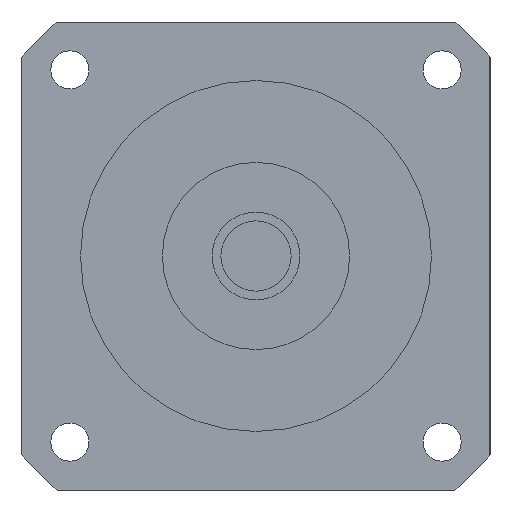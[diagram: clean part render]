
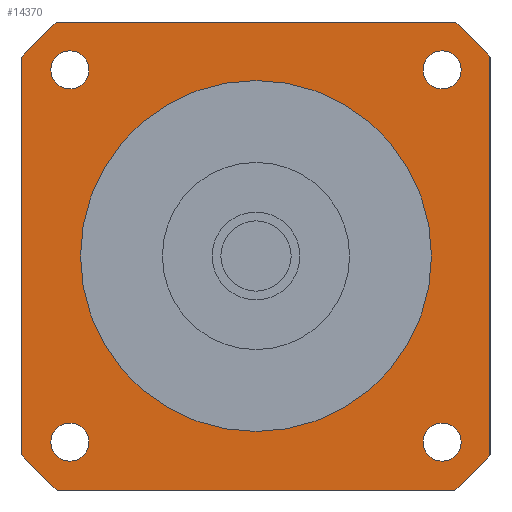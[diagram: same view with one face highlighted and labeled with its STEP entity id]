
A CAD part, left-side view. The second image highlights one B-rep face of the part: STEP entity #14370.
In plain terms, the highlighted planar face has unit normal (-1, 0, 0) as drawn and (0, 0, -1) by its records, which use the part's own axes.
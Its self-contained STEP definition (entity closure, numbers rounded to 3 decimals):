
#12700=CARTESIAN_POINT('',(-28.57,31.82,-42.2));
#12710=VERTEX_POINT('',#12700);
#12740=CARTESIAN_POINT('',(-31.82,31.82,-42.2));
#12750=DIRECTION('',(0.,0.,-1.));
#12760=DIRECTION('',(-1.,0.,0.));
#12770=AXIS2_PLACEMENT_3D('',#12740,#12750,#12760);
#12780=CIRCLE('',#12770,3.25);
#12790=CARTESIAN_POINT('',(-35.07,31.82,-42.2));
#12800=VERTEX_POINT('',#12790);
#12810=EDGE_CURVE('',#12800,#12710,#12780,.T.);
#12930=CARTESIAN_POINT('',(40.,40.,-42.2));
#12940=DIRECTION('',(0.,0.,-1.));
#12950=DIRECTION('',(1.,0.,0.));
#12960=AXIS2_PLACEMENT_3D('',#12930,#12940,#12950);
#12970=PLANE('',#12960);
#12980=CARTESIAN_POINT('',(-31.82,-31.82,-42.2));
#12990=DIRECTION('',(0.,0.,-1.));
#13000=DIRECTION('',(0.,-1.,0.));
#13010=AXIS2_PLACEMENT_3D('',#12980,#12990,#13000);
#13020=CIRCLE('',#13010,3.25);
#13030=CARTESIAN_POINT('',(-31.82,-35.07,-42.2));
#13040=VERTEX_POINT('',#13030);
#13050=CARTESIAN_POINT('',(-31.82,-28.57,-42.2));
#13060=VERTEX_POINT('',#13050);
#13070=EDGE_CURVE('',#13040,#13060,#13020,.T.);
#13080=ORIENTED_EDGE('',*,*,#13070,.F.);
#13090=EDGE_CURVE('',#13060,#13040,#13020,.T.);
#13100=ORIENTED_EDGE('',*,*,#13090,.F.);
#13110=EDGE_LOOP('',(#13100,#13080));
#13120=FACE_BOUND('',#13110,.T.);
#13130=ORIENTED_EDGE('',*,*,#12810,.F.);
#13140=EDGE_CURVE('',#12710,#12800,#12780,.T.);
#13150=ORIENTED_EDGE('',*,*,#13140,.F.);
#13160=EDGE_LOOP('',(#13150,#13130));
#13170=FACE_BOUND('',#13160,.T.);
#13180=CARTESIAN_POINT('',(31.82,31.82,-42.2));
#13190=DIRECTION('',(0.,0.,-1.));
#13200=DIRECTION('',(0.,1.,0.));
#13210=AXIS2_PLACEMENT_3D('',#13180,#13190,#13200);
#13220=CIRCLE('',#13210,3.25);
#13230=CARTESIAN_POINT('',(31.82,35.07,-42.2));
#13240=VERTEX_POINT('',#13230);
#13250=CARTESIAN_POINT('',(31.82,28.57,-42.2));
#13260=VERTEX_POINT('',#13250);
#13270=EDGE_CURVE('',#13240,#13260,#13220,.T.);
#13280=ORIENTED_EDGE('',*,*,#13270,.F.);
#13290=EDGE_CURVE('',#13260,#13240,#13220,.T.);
#13300=ORIENTED_EDGE('',*,*,#13290,.F.);
#13310=EDGE_LOOP('',(#13300,#13280));
#13320=FACE_BOUND('',#13310,.T.);
#13330=CARTESIAN_POINT('',(0.,0.,
-42.2));
#13340=DIRECTION('',(0.,0.,1.));
#13350=DIRECTION('',(0.,1.,0.));
#13360=AXIS2_PLACEMENT_3D('',#13330,#13340,#13350);
#13370=CIRCLE('',#13360,30.);
#13380=CARTESIAN_POINT('',(-30.,0.,-42.2));
#13390=VERTEX_POINT('',#13380);
#13400=CARTESIAN_POINT('',(30.,0.,-42.2));
#13410=VERTEX_POINT('',#13400);
#13420=EDGE_CURVE('',#13390,#13410,#13370,.T.);
#13430=ORIENTED_EDGE('',*,*,#13420,.T.);
#13440=CARTESIAN_POINT('',(0.,30.,-42.2));
#13450=VERTEX_POINT('',#13440);
#13460=EDGE_CURVE('',#13450,#13390,#13370,.T.);
#13470=ORIENTED_EDGE('',*,*,#13460,.T.);
#13480=EDGE_CURVE('',#13410,#13450,#13370,.T.);
#13490=ORIENTED_EDGE('',*,*,#13480,.T.);
#13500=EDGE_LOOP('',(#13490,#13470,#13430));
#13510=FACE_BOUND('',#13500,.T.);
#13520=CARTESIAN_POINT('',(-40.,40.,-42.2));
#13530=DIRECTION('',(1.,0.,0.));
#13540=VECTOR('',#13530,1000.);
#13550=LINE('',#13520,#13540);
#13560=CARTESIAN_POINT('',(-34.004,40.,-42.2));
#13570=VERTEX_POINT('',#13560);
#13580=CARTESIAN_POINT('',(34.004,40.,-42.2));
#13590=VERTEX_POINT('',#13580);
#13600=EDGE_CURVE('',#13570,#13590,#13550,.T.);
#13610=ORIENTED_EDGE('',*,*,#13600,.T.);
#13620=CARTESIAN_POINT('',(0.,0.,
-42.2));
#13630=DIRECTION('',(0.,0.,-1.));
#13640=DIRECTION('',(1.,0.,0.));
#13650=AXIS2_PLACEMENT_3D('',#13620,#13630,#13640);
#13660=CIRCLE('',#13650,52.5);
#13670=CARTESIAN_POINT('',(-40.,34.004,-42.2));
#13680=VERTEX_POINT('',#13670);
#13690=EDGE_CURVE('',#13680,#13570,#13660,.T.);
#13700=ORIENTED_EDGE('',*,*,#13690,.T.);
#13710=CARTESIAN_POINT('',(-40.,-40.,-42.2));
#13720=DIRECTION('',(0.,1.,0.));
#13730=VECTOR('',#13720,1000.);
#13740=LINE('',#13710,#13730);
#13750=CARTESIAN_POINT('',(-40.,-34.004,-42.2));
#13760=VERTEX_POINT('',#13750);
#13770=EDGE_CURVE('',#13760,#13680,#13740,.T.);
#13780=ORIENTED_EDGE('',*,*,#13770,.T.);
#13790=CARTESIAN_POINT('',(0.,0.,
-42.2));
#13800=DIRECTION('',(0.,0.,-1.));
#13810=DIRECTION('',(1.,0.,0.));
#13820=AXIS2_PLACEMENT_3D('',#13790,#13800,#13810);
#13830=CIRCLE('',#13820,52.5);
#13840=CARTESIAN_POINT('',(-34.004,-40.,-42.2));
#13850=VERTEX_POINT('',#13840);
#13860=EDGE_CURVE('',#13850,#13760,#13830,.T.);
#13870=ORIENTED_EDGE('',*,*,#13860,.T.);
#13880=CARTESIAN_POINT('',(40.,-40.,-42.2));
#13890=DIRECTION('',(-1.,0.,0.));
#13900=VECTOR('',#13890,1000.);
#13910=LINE('',#13880,#13900);
#13920=CARTESIAN_POINT('',(34.004,-40.,-42.2));
#13930=VERTEX_POINT('',#13920);
#13940=EDGE_CURVE('',#13930,#13850,#13910,.T.);
#13950=ORIENTED_EDGE('',*,*,#13940,.T.);
#13960=CARTESIAN_POINT('',(0.,0.,
-42.2));
#13970=DIRECTION('',(0.,0.,-1.));
#13980=DIRECTION('',(1.,0.,0.));
#13990=AXIS2_PLACEMENT_3D('',#13960,#13970,#13980);
#14000=CIRCLE('',#13990,52.5);
#14010=CARTESIAN_POINT('',(40.,-34.004,-42.2));
#14020=VERTEX_POINT('',#14010);
#14030=EDGE_CURVE('',#14020,#13930,#14000,.T.);
#14040=ORIENTED_EDGE('',*,*,#14030,.T.);
#14050=CARTESIAN_POINT('',(40.,40.,-42.2));
#14060=DIRECTION('',(0.,-1.,0.));
#14070=VECTOR('',#14060,1000.);
#14080=LINE('',#14050,#14070);
#14090=CARTESIAN_POINT('',(40.,34.004,-42.2));
#14100=VERTEX_POINT('',#14090);
#14110=EDGE_CURVE('',#14100,#14020,#14080,.T.);
#14120=ORIENTED_EDGE('',*,*,#14110,.T.);
#14130=CARTESIAN_POINT('',(0.,0.,
-42.2));
#14140=DIRECTION('',(0.,0.,-1.));
#14150=DIRECTION('',(1.,0.,0.));
#14160=AXIS2_PLACEMENT_3D('',#14130,#14140,#14150);
#14170=CIRCLE('',#14160,52.5);
#14180=EDGE_CURVE('',#13590,#14100,#14170,.T.);
#14190=ORIENTED_EDGE('',*,*,#14180,.T.);
#14200=EDGE_LOOP('',(#14190,#14120,#14040,#13950,#13870,#13780,#13700,
#13610));
#14210=FACE_OUTER_BOUND('',#14200,.T.);
#14220=CARTESIAN_POINT('',(31.82,-31.82,-42.2));
#14230=DIRECTION('',(0.,0.,-1.));
#14240=DIRECTION('',(1.,0.,0.));
#14250=AXIS2_PLACEMENT_3D('',#14220,#14230,#14240);
#14260=CIRCLE('',#14250,3.25);
#14270=CARTESIAN_POINT('',(35.07,-31.82,-42.2));
#14280=VERTEX_POINT('',#14270);
#14290=CARTESIAN_POINT('',(28.57,-31.82,-42.2));
#14300=VERTEX_POINT('',#14290);
#14310=EDGE_CURVE('',#14280,#14300,#14260,.T.);
#14320=ORIENTED_EDGE('',*,*,#14310,.F.);
#14330=EDGE_CURVE('',#14300,#14280,#14260,.T.);
#14340=ORIENTED_EDGE('',*,*,#14330,.F.);
#14350=EDGE_LOOP('',(#14340,#14320));
#14360=FACE_BOUND('',#14350,.T.);
#14370=ADVANCED_FACE('',(#13120,#13170,#13320,#13510,#14210,#14360),
#12970,.T.);
